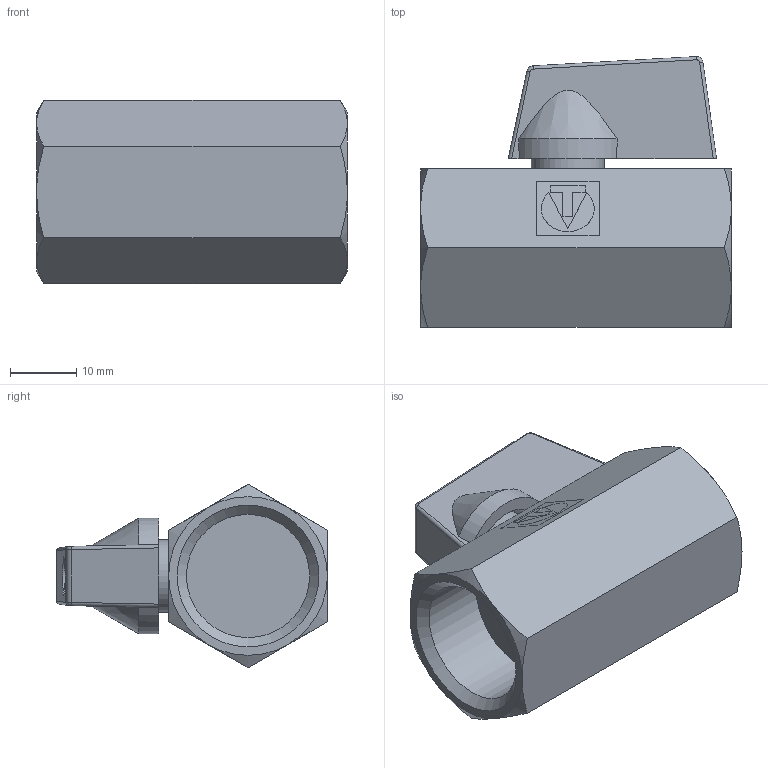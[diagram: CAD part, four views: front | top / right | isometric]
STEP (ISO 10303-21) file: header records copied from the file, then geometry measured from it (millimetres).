
FILE_DESCRIPTION(('STEP AP203'), '1');
FILE_NAME('VT.330.N.04', '', ('UNSPECIFIED'), ('UNSPECIFIED'), 'C3D Converter', 'C3D Toolkit', '');
FILE_SCHEMA(('CONFIG_CONTROL_DESIGN'));
Length unit declared in the file: millimetre
Products named in the file (1): ВР.491812.033.000 СБ
Bounding box: 47 x 40.95 x 27.71 mm (x, y, z)
Volume: 20570 mm3; surface area: 8729.8 mm2
Topology: 1 solids, 3 shells, 119 faces, 277 edges, 176 vertices
Faces by surface type: plane 67, cylinder 29, cone 16, bspline 6, torus 1
Full cylindrical faces by diameter (mm): 4 x1, 4.5 x1, 6 x1, 8 x1, 11 x1, 13.5 x1, 18.632 x2
Entity records: 4786 total; most frequent: CARTESIAN_POINT 2242, ORIENTED_EDGE 528, DIRECTION 474, EDGE_CURVE 264, VERTEX_POINT 175, AXIS2_PLACEMENT_3D 168, EDGE_LOOP 141, LINE 138
